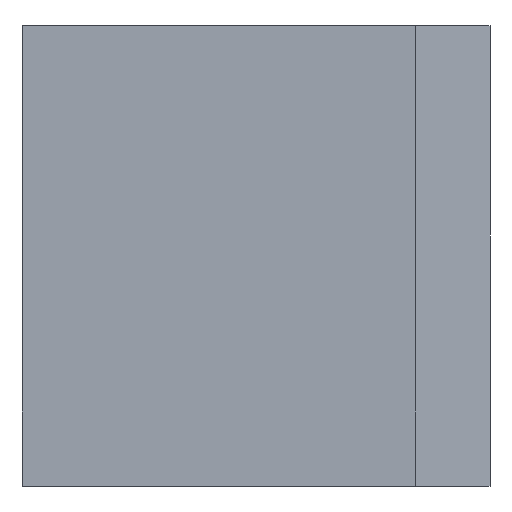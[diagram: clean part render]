
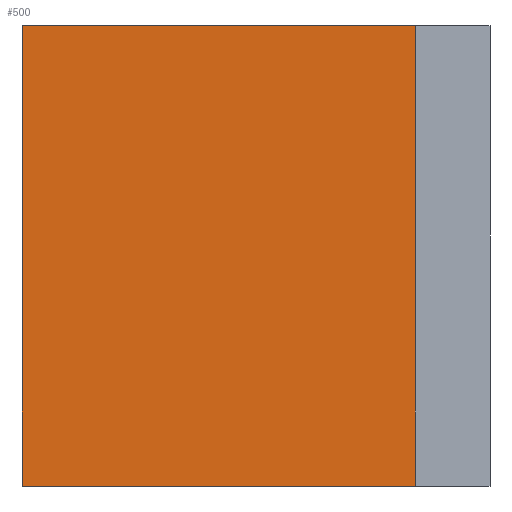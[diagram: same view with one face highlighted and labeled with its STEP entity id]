
A CAD part, top view. The second image highlights one B-rep face of the part: STEP entity #500.
In plain terms, the highlighted planar face has unit normal (0, 0, 1).
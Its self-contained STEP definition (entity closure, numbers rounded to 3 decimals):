
#112=CARTESIAN_POINT('',(2.833,4.,1.3));
#113=VERTEX_POINT('',#112);
#169=CARTESIAN_POINT('',(-4.,4.,1.3));
#170=VERTEX_POINT('',#169);
#177=CARTESIAN_POINT('',(-4.,4.,1.3));
#178=DIRECTION('',(1.,0.,-0.));
#179=VECTOR('',#178,6.833);
#180=LINE('',#177,#179);
#181=EDGE_CURVE('',#170,#113,#180,.T.);
#319=CARTESIAN_POINT('',(-4.,-4.,1.3));
#320=VERTEX_POINT('',#319);
#327=CARTESIAN_POINT('',(-4.,-4.,1.3));
#328=DIRECTION('',(0.,1.,0.));
#329=VECTOR('',#328,8.);
#330=LINE('',#327,#329);
#331=EDGE_CURVE('',#320,#170,#330,.T.);
#412=CARTESIAN_POINT('',(2.833,-4.,1.3));
#413=VERTEX_POINT('',#412);
#420=CARTESIAN_POINT('',(2.833,-4.,1.3));
#421=DIRECTION('',(-1.,0.,0.));
#422=VECTOR('',#421,6.833);
#423=LINE('',#420,#422);
#424=EDGE_CURVE('',#413,#320,#423,.T.);
#484=CARTESIAN_POINT('',(0.,0.,1.3));
#485=DIRECTION('',(0.,0.,1.));
#486=DIRECTION('',(1.,0.,0.));
#487=AXIS2_PLACEMENT_3D('',#484,#485,#486);
#488=PLANE('',#487);
#489=ORIENTED_EDGE('',*,*,#424,.F.);
#490=CARTESIAN_POINT('',(2.833,-4.,1.3));
#491=DIRECTION('',(0.,1.,0.));
#492=VECTOR('',#491,8.);
#493=LINE('',#490,#492);
#494=EDGE_CURVE('',#413,#113,#493,.T.);
#495=ORIENTED_EDGE('',*,*,#494,.T.);
#496=ORIENTED_EDGE('',*,*,#181,.F.);
#497=ORIENTED_EDGE('',*,*,#331,.F.);
#498=EDGE_LOOP('',(#489,#495,#496,#497));
#499=FACE_BOUND('',#498,.T.);
#500=ADVANCED_FACE('',(#499),#488,.T.);
